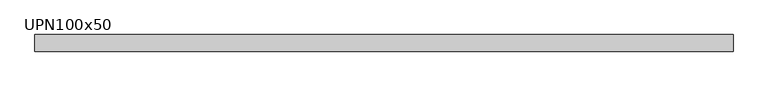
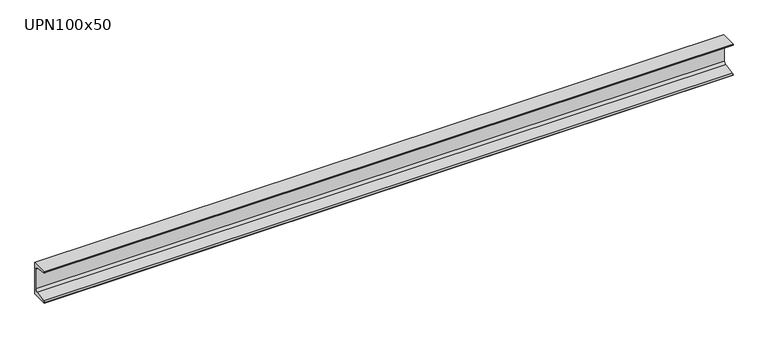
"""IFC4 building model written with IfcOpenShell, lengths in millimetres: beam geometry, M_MC Shapes : UPN100x50."""

from ifc_helpers import new_model, si_unit, point, frame, frame_2d, origin, place, context, project, spatial, polyline, circle_curve, trimmed, segment, composite_curve, outline, extrude, source, transform, mapped, element, save


def upn100x50_0c5ca5da(model_context):
    return source(origin(), model_context, "Body", "SweptSolid", [
        extrude(outline(composite_curve([segment(polyline([(10.9, 50.0), (10.9, -50.0), (-39.1, -50.0), (-39.1, -49.0253247)]), True, "CONTINUOUS"), segment(trimmed(circle_curve(frame_2d((-35.15, -49.0253247)), 3.95), [point((-39.1, -49.0253247))], [point((-35.7993773, -45.1290689))], False, "CARTESIAN"), True, "CONTINUOUS"), segment(polyline([(-35.7993773, -45.1290689), (-0.2512455, -39.2043685)]), True, "CONTINUOUS"), segment(trimmed(circle_curve(frame_2d((-1.55, -31.4118569)), 7.9), [point((-0.2512455, -39.2043685))], [point((6.35, -31.4118569))], True, "CARTESIAN"), True, "CONTINUOUS"), segment(polyline([(6.35, -31.4118569), (6.35, 31.4118569)]), True, "CONTINUOUS"), segment(trimmed(circle_curve(frame_2d((-1.55, 31.4118569)), 7.9), [point((6.35, 31.4118569))], [point((-0.2512455, 39.2043685))], True, "CARTESIAN"), True, "CONTINUOUS"), segment(polyline([(-0.2512455, 39.2043685), (-35.7993773, 45.1290689)]), True, "CONTINUOUS"), segment(trimmed(circle_curve(frame_2d((-35.15, 49.0253247)), 3.95), [point((-35.7993773, 45.1290689))], [point((-39.1, 49.0253247))], False, "CARTESIAN"), True, "CONTINUOUS"), segment(polyline([(-39.1, 49.0253247), (-39.1, 50.0), (10.9, 50.0)]), True, "CONTINUOUS")], self_intersect=False)), frame((-947.55, 0.0, 0.0), z_axis=(1.0, 0.0, 0.0), x_axis=(0.0, 1.0, 0.0)), (0.0, 0.0, 1.0), 2093.4),
    ])


if __name__ == "__main__":
    model = new_model("IFC4")
    model_context = context("Model", 3, world=origin())
    ifc_project = project(units=[si_unit("LENGTHUNIT", "METRE", prefix="MILLI")], contexts=[model_context])
    site = spatial("IfcSite", under=ifc_project)
    building = spatial("IfcBuilding", under=site)
    placement = place(None, origin())
    upn100x50_shape = upn100x50_0c5ca5da(model_context)
    element("IfcBeam", 1, ObjectType="M_MC Shapes : UPN100x50", at=placement, inside=building, context=model_context, shape_type="MappedRepresentation", body=[
        mapped(upn100x50_shape, transform((0.0, 0.0, 0.0), x_axis=(1.0, 0.0, 0.0), y_axis=(0.0, 1.0, 0.0), z_axis=(0.0, 0.0, 1.0))),
    ])
    save(model, "model.ifc")
